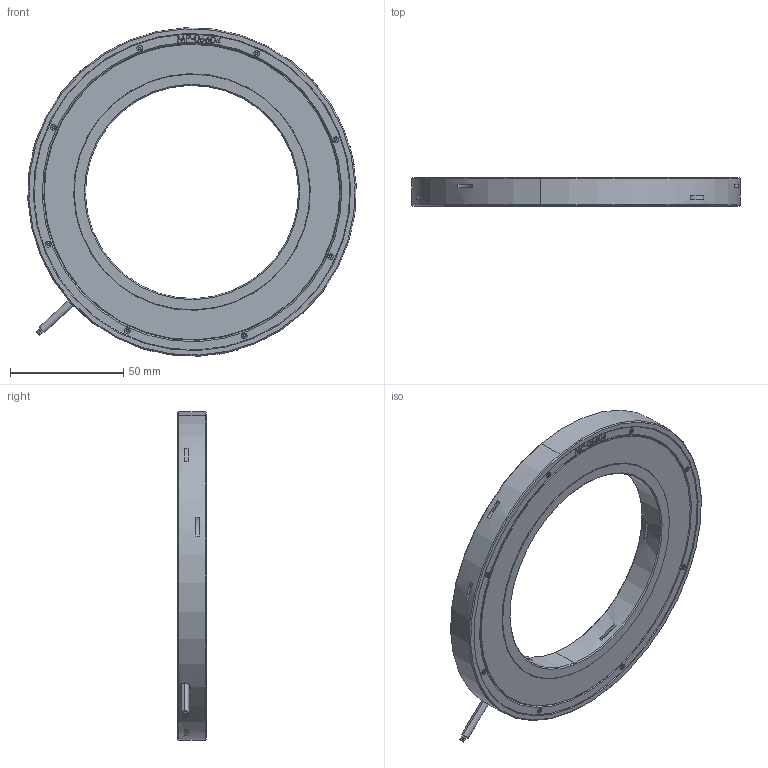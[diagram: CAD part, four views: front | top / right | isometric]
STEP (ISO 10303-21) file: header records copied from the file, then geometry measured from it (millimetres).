
FILE_DESCRIPTION (( 'STEP AP214' ), '1' );
FILE_NAME ('VLZ-140.STEP', '2025-05-29T11:07:31', ( '' ), ( '' ), 'SwSTEP 2.0', 'SolidWorks 2022', '' );
FILE_SCHEMA (( 'AUTOMOTIVE_DESIGN' ));
Length unit declared in the file: millimetre
Products named in the file (8): CB-00014; MP-06606; MP-06484; MP-06745; MP-06604; MP-00200; VLZ-140; CB-00014 cable END 
Assembly tree (14 placements, depth 2):
  VLZ-140
    MP-06745
    MP-06604
    MP-06606
    MP-00200  x8
    MP-06484
    CB-00014
    CB-00014 cable END 
Bounding box: 144.86 x 12.5 x 144.86 mm (x, y, z)
Volume: 67930.5 mm3; surface area: 61192.3 mm2
Topology: 38 solids, 38 shells, 1320 faces, 3030 edges, 1906 vertices
Faces by surface type: plane 638, cylinder 279, cone 191, bspline 164, torus 48
Entity records: 45414 total; most frequent: CARTESIAN_POINT 19318, ORIENTED_EDGE 5076, DIRECTION 4723, EDGE_CURVE 2538, VERTEX_POINT 1647, AXIS2_PLACEMENT_3D 1612, LINE 1499, VECTOR 1499
